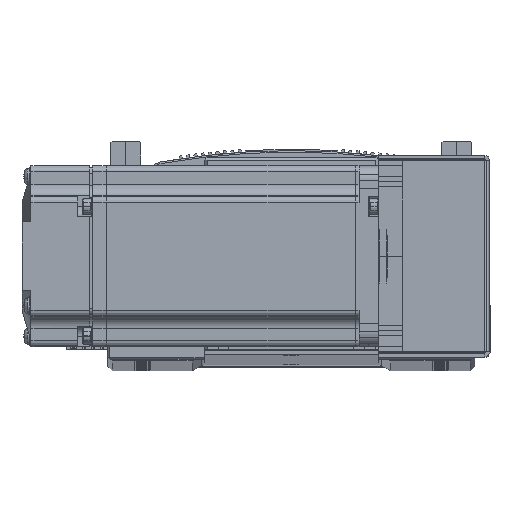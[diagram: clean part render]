
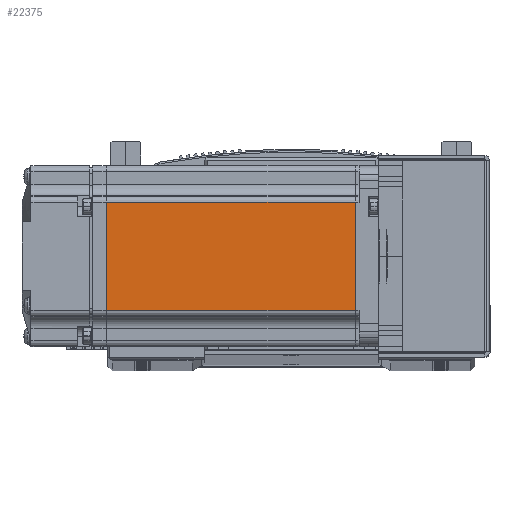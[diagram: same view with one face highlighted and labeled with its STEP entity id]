
A CAD part, top view. The second image highlights one B-rep face of the part: STEP entity #22375.
In plain terms, the highlighted planar face has unit normal (0, 0, 1) as drawn and (0, 1, 0) by its records, which use the part's own axes.
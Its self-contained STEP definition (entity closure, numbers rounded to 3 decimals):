
#3670 = AXIS2_PLACEMENT_3D ( 'NONE', #66289, #66258, #66314 ) ;
#6636 = CARTESIAN_POINT ( 'NONE',  ( -7.75, 30., 18. ) ) ;
#6775 = CARTESIAN_POINT ( 'NONE',  ( -7.75, 30., -18. ) ) ;
#6852 = CARTESIAN_POINT ( 'NONE',  ( -90.45, 30., -18. ) ) ;
#7629 = VERTEX_POINT ( 'NONE', #89441 ) ;
#17182 = LINE ( 'NONE', #23612, #17184 ) ;
#17184 = VECTOR ( 'NONE', #23630, 1000. ) ;
#17230 = VECTOR ( 'NONE', #23701, 1000. ) ;
#17243 = LINE ( 'NONE', #23707, #17244 ) ;
#17244 = VECTOR ( 'NONE', #23693, 1000. ) ;
#17247 = LINE ( 'NONE', #23712, #17230 ) ;
#17280 = VECTOR ( 'NONE', #23824, 1000. ) ;
#17326 = LINE ( 'NONE', #23832, #17280 ) ;
#22375 = ADVANCED_FACE ( 'NONE', ( #39675 ), #66300, .T. ) ;
#23612 = CARTESIAN_POINT ( 'NONE',  ( -6.5, 30., 18. ) ) ;
#23630 = DIRECTION ( 'NONE',  ( 1., 0., 0. ) ) ;
#23693 = DIRECTION ( 'NONE',  ( 0., 0., 1. ) ) ;
#23701 = DIRECTION ( 'NONE',  ( -1., 0., 0. ) ) ;
#23707 = CARTESIAN_POINT ( 'NONE',  ( -7.75, 30., 0. ) ) ;
#23712 = CARTESIAN_POINT ( 'NONE',  ( -6.5, 30., -18. ) ) ;
#23824 = DIRECTION ( 'NONE',  ( 0., 0., 1. ) ) ;
#23832 = CARTESIAN_POINT ( 'NONE',  ( -90.45, 30., 0. ) ) ;
#39675 = FACE_OUTER_BOUND ( 'NONE', #91968, .T. ) ;
#66258 = DIRECTION ( 'NONE',  ( 0., 1., 0. ) ) ;
#66289 = CARTESIAN_POINT ( 'NONE',  ( -6.5, 30., 25. ) ) ;
#66300 = PLANE ( 'NONE',  #3670 ) ;
#66314 = DIRECTION ( 'NONE',  ( 0., 0., 1. ) ) ;
#71870 = EDGE_CURVE ( 'NONE', #7629, #79005, #17182, .T. ) ;
#71969 = EDGE_CURVE ( 'NONE', #79524, #79641, #17247, .T. ) ;
#71979 = EDGE_CURVE ( 'NONE', #79524, #79005, #17243, .T. ) ;
#72089 = EDGE_CURVE ( 'NONE', #79641, #7629, #17326, .T. ) ;
#74749 = ORIENTED_EDGE ( 'NONE', *, *, #71979, .F. ) ;
#74788 = ORIENTED_EDGE ( 'NONE', *, *, #72089, .T. ) ;
#74811 = ORIENTED_EDGE ( 'NONE', *, *, #71969, .T. ) ;
#74944 = ORIENTED_EDGE ( 'NONE', *, *, #71870, .T. ) ;
#79005 = VERTEX_POINT ( 'NONE', #6636 ) ;
#79524 = VERTEX_POINT ( 'NONE', #6775 ) ;
#79641 = VERTEX_POINT ( 'NONE', #6852 ) ;
#89441 = CARTESIAN_POINT ( 'NONE',  ( -90.45, 30., 18. ) ) ;
#91968 = EDGE_LOOP ( 'NONE', ( #74749, #74811, #74788, #74944 ) ) ;
